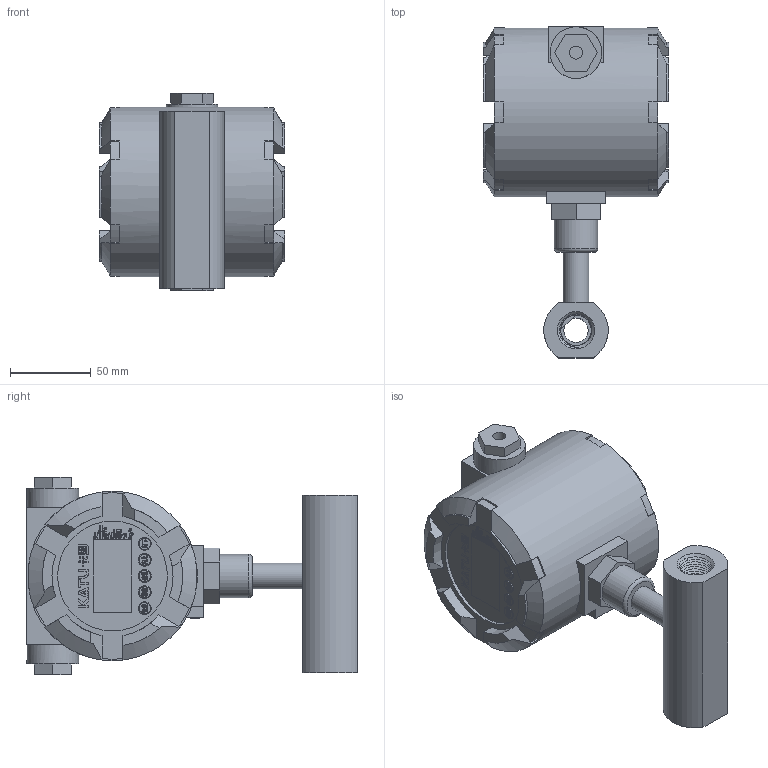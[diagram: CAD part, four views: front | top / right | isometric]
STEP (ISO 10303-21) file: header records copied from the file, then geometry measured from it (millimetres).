
FILE_DESCRIPTION( (''), '2;1');
FILE_NAME( 'QTKC_DN15_female-thread_Ex.step', '2024-10-14T14:36:51+08:00', (''), (''), '', '', '');
FILE_SCHEMA (('AUTOMOTIVE_DESIGN { 1 0 10303 214 3 1 1 1 }'));
Length unit declared in the file: millimetre
Products named in the file (1): QTKC DN15_female-thread_Ex
Bounding box: 115 x 205.5 x 122.4 mm (x, y, z)
Volume: 1049739.5 mm3; surface area: 102510.8 mm2
Topology: 4 solids, 4 shells, 1342 faces, 3675 edges, 2442 vertices
Faces by surface type: plane 725, extrusion 504, cylinder 71, bspline 20, cone 16, torus 6
Full cylindrical faces by diameter (mm): 3.3 x1, 8 x2, 15 x2, 16 x1, 18.5 x1, 19 x2, 20 x2, 27 x1, 32 x2, 68 x1, 105 x1
Entity records: 47599 total; most frequent: CARTESIAN_POINT 15897, ORIENTED_EDGE 7248, DIRECTION 4793, EDGE_CURVE 3624, VECTOR 2795, VERTEX_POINT 2421, LINE 2291, B_SPLINE_CURVE_WITH_KNOTS 1655
